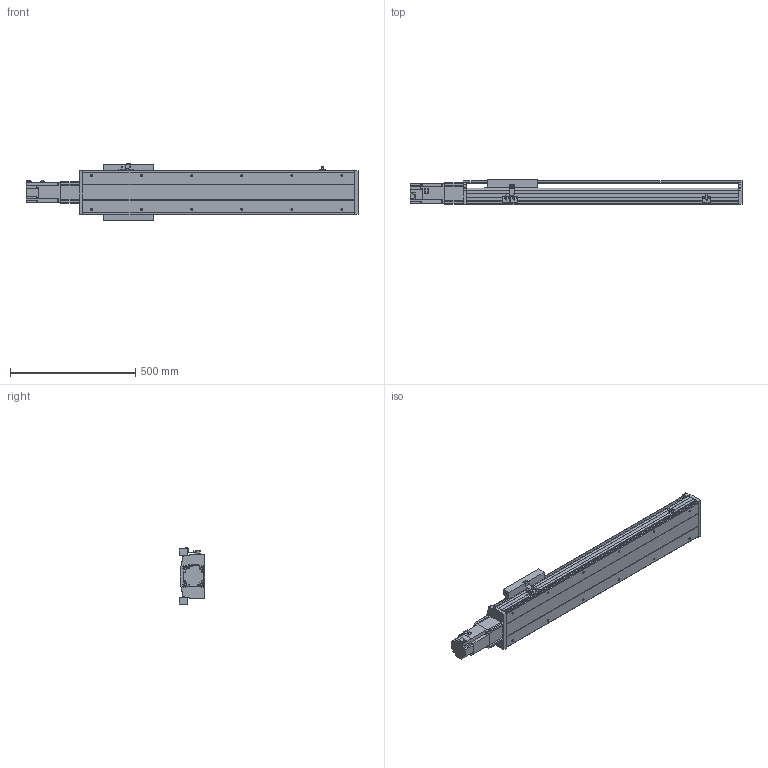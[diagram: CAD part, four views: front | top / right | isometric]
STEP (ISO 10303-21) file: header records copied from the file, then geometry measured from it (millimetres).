
FILE_DESCRIPTION( ( 'STEP AP214' ), '1' );
FILE_NAME( 'x:/temp/worker_27/temp/exporttempdir_6708_409_m64Dr/format_0/PSS200-L10-S750-BC-T75-C1-N(0).stp', '2022-06-06T02:34:18', ( 'License CC BY-ND 4.0' ), ( 'CADENAS' ), ' ', 'PARTsolutions', ' ' );
FILE_SCHEMA( ( 'AUTOMOTIVE_DESIGN { 1 0 10303 214 1 1 1 1 }' ) );
Length unit declared in the file: millimetre
Products named in the file (8): PSS200-L10-S750-BC-T75-C1-N(0); _PSS200-S750-BC-C1-N_body; _PSS200-N_Q; _PSS200-BC-C1-N_sl; _PSS200-N_sensor; _PSS200BC-N_h; _T75-p1; _PSS200-S750-BC-N_S
Assembly tree (9 placements, depth 2):
  PSS200-L10-S750-BC-T75-C1-N(0)
    _PSS200-S750-BC-C1-N_body
    _PSS200-N_Q
    _PSS200-BC-C1-N_sl
    _PSS200-N_sensor  x3
    _PSS200BC-N_h
    _T75-p1
    _PSS200-S750-BC-N_S
Bounding box: 1326.3 x 101.5 x 223.86 mm (x, y, z)
Volume: 7485416.9 mm3; surface area: 1859368.3 mm2
Topology: 9 solids, 9 shells, 577 faces, 1543 edges, 1024 vertices
Faces by surface type: plane 439, cylinder 118, cone 20
Full cylindrical faces by diameter (mm): 4 x2, 4.5 x4, 6 x11, 6.647 x16, 8 x8, 10 x6, 25 x1, 67 x1, 70 x1
Entity records: 20231 total; most frequent: CARTESIAN_POINT 2824, DIRECTION 2641, ORIENTED_EDGE 2630, EDGE_CURVE 1315, LINE 1051, VECTOR 1051, VERTEX_POINT 914, AXIS2_PLACEMENT_3D 795
